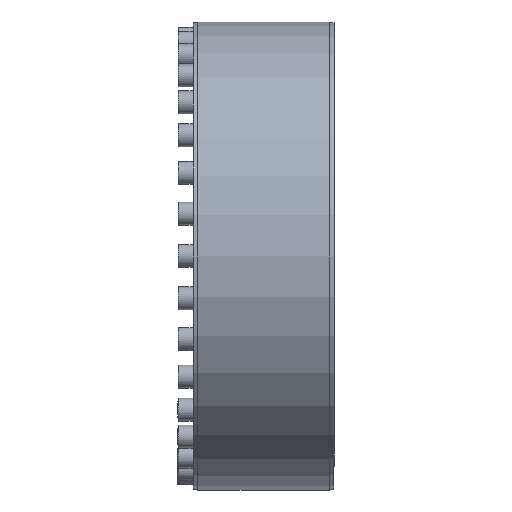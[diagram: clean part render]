
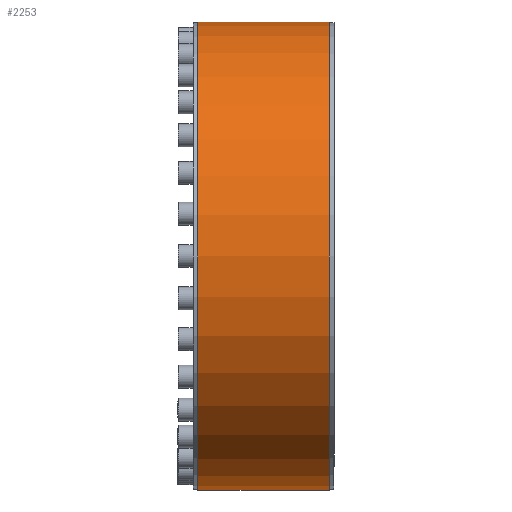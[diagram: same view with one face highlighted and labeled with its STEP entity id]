
A CAD part, left-side view. The second image highlights one B-rep face of the part: STEP entity #2253.
In plain terms, the highlighted cylindrical face has radius 337.5 mm (diameter 675 mm), a partial arc.
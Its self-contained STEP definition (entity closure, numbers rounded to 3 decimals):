
#224 = VERTEX_POINT ( 'NONE', #2402 ) ;
#739 = DIRECTION ( 'NONE',  ( 0., 0., -1. ) ) ;
#768 = FACE_OUTER_BOUND ( 'NONE', #3929, .T. ) ;
#1010 = DIRECTION ( 'NONE',  ( 0., -1., 0. ) ) ;
#1174 = ORIENTED_EDGE ( 'NONE', *, *, #7129, .F. ) ;
#1757 = EDGE_CURVE ( 'NONE', #11265, #8195, #7989, .T. ) ;
#2097 = CARTESIAN_POINT ( 'NONE',  ( 0., 95., -337.5 ) ) ;
#2253 = ADVANCED_FACE ( 'NONE', ( #768 ), #10576, .T. ) ;
#2402 = CARTESIAN_POINT ( 'NONE',  ( 0., 95., 337.5 ) ) ;
#2711 = DIRECTION ( 'NONE',  ( 0., 0., -1. ) ) ;
#2850 = CARTESIAN_POINT ( 'NONE',  ( 0., 0., 0. ) ) ;
#2938 = CIRCLE ( 'NONE', #7982, 337.5 ) ;
#3265 = VECTOR ( 'NONE', #10585, 1000. ) ;
#3440 = CARTESIAN_POINT ( 'NONE',  ( 0., -95., 337.5 ) ) ;
#3929 = EDGE_LOOP ( 'NONE', ( #1174, #8533, #7308, #9822 ) ) ;
#3948 = LINE ( 'NONE', #7986, #3265 ) ;
#4387 = CARTESIAN_POINT ( 'NONE',  ( 0., -95., 0. ) ) ;
#5282 = DIRECTION ( 'NONE',  ( 0., -1., 0. ) ) ;
#5764 = VECTOR ( 'NONE', #6604, 1000. ) ;
#6228 = DIRECTION ( 'NONE',  ( 0., 0., -1. ) ) ;
#6604 = DIRECTION ( 'NONE',  ( 0., -1., 0. ) ) ;
#6765 = VERTEX_POINT ( 'NONE', #2097 ) ;
#7129 = EDGE_CURVE ( 'NONE', #224, #11265, #3948, .T. ) ;
#7308 = ORIENTED_EDGE ( 'NONE', *, *, #9607, .T. ) ;
#7572 = CARTESIAN_POINT ( 'NONE',  ( 0., -95., -337.5 ) ) ;
#7635 = EDGE_CURVE ( 'NONE', #224, #6765, #2938, .T. ) ;
#7845 = AXIS2_PLACEMENT_3D ( 'NONE', #2850, #1010, #6228 ) ;
#7982 = AXIS2_PLACEMENT_3D ( 'NONE', #11161, #8620, #739 ) ;
#7986 = CARTESIAN_POINT ( 'NONE',  ( 0., 0., 337.5 ) ) ;
#7989 = CIRCLE ( 'NONE', #8078, 337.5 ) ;
#8078 = AXIS2_PLACEMENT_3D ( 'NONE', #4387, #5282, #2711 ) ;
#8195 = VERTEX_POINT ( 'NONE', #7572 ) ;
#8533 = ORIENTED_EDGE ( 'NONE', *, *, #7635, .T. ) ;
#8620 = DIRECTION ( 'NONE',  ( 0., -1., 0. ) ) ;
#9607 = EDGE_CURVE ( 'NONE', #6765, #8195, #10654, .T. ) ;
#9822 = ORIENTED_EDGE ( 'NONE', *, *, #1757, .F. ) ;
#10576 = CYLINDRICAL_SURFACE ( 'NONE', #7845, 337.5 ) ;
#10585 = DIRECTION ( 'NONE',  ( 0., -1., 0. ) ) ;
#10654 = LINE ( 'NONE', #10713, #5764 ) ;
#10713 = CARTESIAN_POINT ( 'NONE',  ( 0., 0., -337.5 ) ) ;
#11161 = CARTESIAN_POINT ( 'NONE',  ( 0., 95., 0. ) ) ;
#11265 = VERTEX_POINT ( 'NONE', #3440 ) ;
